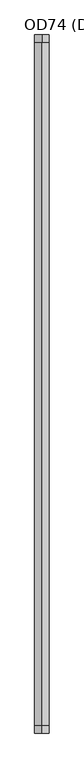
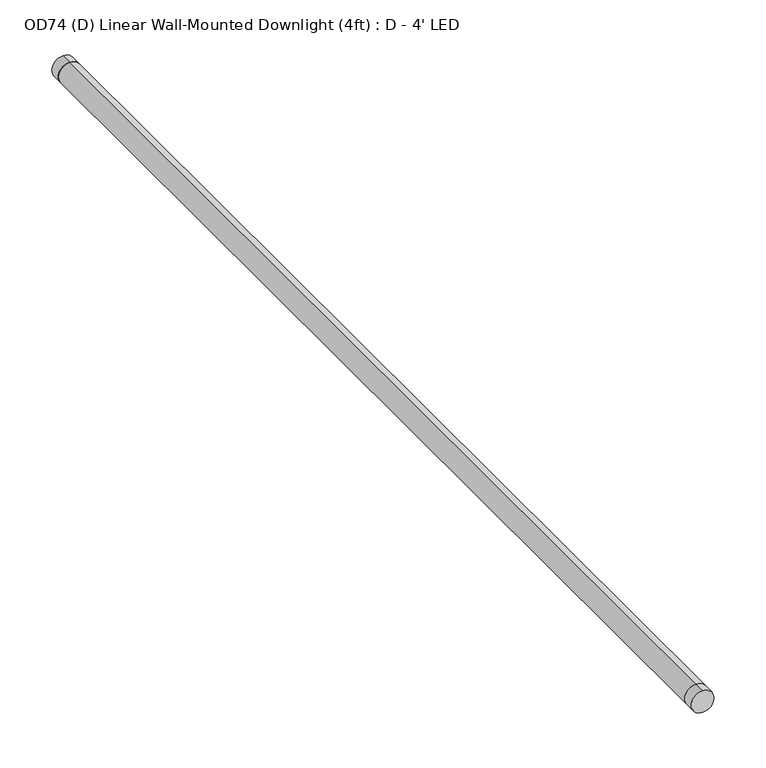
"""IFC4 building model written with IfcOpenShell, lengths in millimetres: light fixture geometry, OD74 (D) Linear Wall-Mounted Downlight (4ft) : D - 4' LED."""

from ifc_helpers import new_model, si_unit, point, frame, frame_2d, origin, place, context, project, spatial, circle_curve, trimmed, segment, composite_curve, outline, extrude, source, transform, mapped, element, save


def od74_d_linear_wall_mounted_downlight_4ft_d_4_led_8e24e518(model_context):
    return source(origin(), model_context, "Body", "SweptSolid", [
        extrude(outline(composite_curve([segment(trimmed(circle_curve(frame_2d((91.28125, -3.175)), 12.7), [point((103.98125, -3.175))], [point((78.58125, -3.175))], False, "CARTESIAN"), True, "CONTINUOUS"), segment(trimmed(circle_curve(frame_2d((91.28125, -3.175)), 12.7), [point((78.58125, -3.175))], [point((103.98125, -3.175))], False, "CARTESIAN"), True, "CONTINUOUS")], self_intersect=False)), frame((0.0, -616.74375, 0.0), z_axis=(0.0, 1.0, 0.0), x_axis=(0.0, 0.0, 1.0)), (0.0, 0.0, 1.0), 12.7),
        extrude(outline(composite_curve([segment(trimmed(circle_curve(frame_2d((91.28125, -3.175)), 12.7), [point((78.58125, -3.175))], [point((103.98125, -3.175))], False, "CARTESIAN"), True, "CONTINUOUS"), segment(trimmed(circle_curve(frame_2d((91.28125, -3.175)), 12.7), [point((103.98125, -3.175))], [point((78.58125, -3.175))], False, "CARTESIAN"), True, "CONTINUOUS")], self_intersect=False)), frame((0.0, 604.04375, 0.0), z_axis=(0.0, 1.0, 0.0), x_axis=(0.0, 0.0, 1.0)), (0.0, 0.0, 1.0), 12.7),
        extrude(outline(composite_curve([segment(trimmed(circle_curve(frame_2d((91.28125, -3.175)), 12.7), [point((103.98125, -3.175))], [point((78.58125, -3.175))], False, "CARTESIAN"), True, "CONTINUOUS"), segment(trimmed(circle_curve(frame_2d((91.28125, -3.175)), 12.7), [point((78.58125, -3.175))], [point((103.98125, -3.175))], False, "CARTESIAN"), True, "CONTINUOUS")], self_intersect=False)), frame((0.0, -604.04375, 0.0), z_axis=(0.0, 1.0, 0.0), x_axis=(0.0, 0.0, 1.0)), (0.0, 0.0, 1.0), 1208.0875),
    ])


if __name__ == "__main__":
    model = new_model("IFC4")
    model_context = context("Model", 3, world=origin())
    ifc_project = project(units=[si_unit("LENGTHUNIT", "METRE", prefix="MILLI")], contexts=[model_context])
    site = spatial("IfcSite", under=ifc_project)
    building = spatial("IfcBuilding", under=site)
    placement = place(None, origin())
    od74_d_linear_wall_mounted_downlight_4ft_d_4_led_shape = od74_d_linear_wall_mounted_downlight_4ft_d_4_led_8e24e518(model_context)
    element("IfcLightFixture", 1, ObjectType="OD74 (D) Linear Wall-Mounted Downlight (4ft) : D - 4' LED", at=placement, inside=building, context=model_context, shape_type="MappedRepresentation", body=[
        mapped(od74_d_linear_wall_mounted_downlight_4ft_d_4_led_shape, transform((0.0, 0.0, 0.0), x_axis=(1.0, 0.0, 0.0), y_axis=(0.0, 1.0, 0.0), z_axis=(0.0, 0.0, 1.0))),
    ])
    save(model, "model.ifc")
